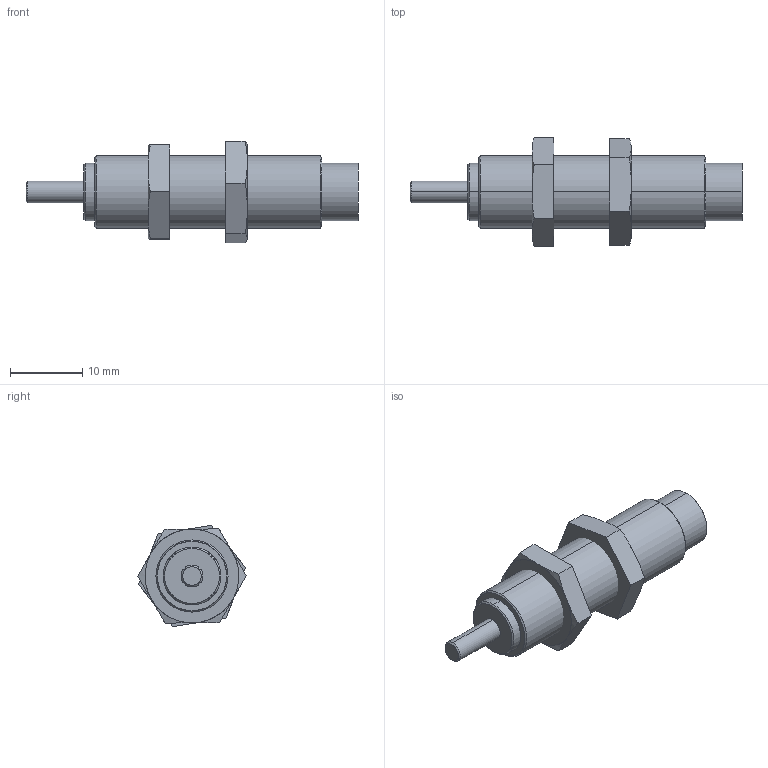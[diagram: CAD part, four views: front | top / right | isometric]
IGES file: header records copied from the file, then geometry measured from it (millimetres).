
Start section: SolidWorks IGES file using analytic representation for surfaces
Global section: file name: C:\Users\Sam Lin\Desktop\48\FSA-1008AA.IGS; native system: SolidWorks 2013; preprocessor: SolidWorks 2013; author: Sam Lin; date: 160317.153754; units: metre
Bounding box: 46 x 15.01 x 14.04 mm (x, y, z)
Surface area: 2137.6 mm2 (no closed solid volume)
Topology: 0 solids, 0 shells, 53 faces, 812 edges, 812 vertices
Faces by surface type: bspline 33, revolution 20
